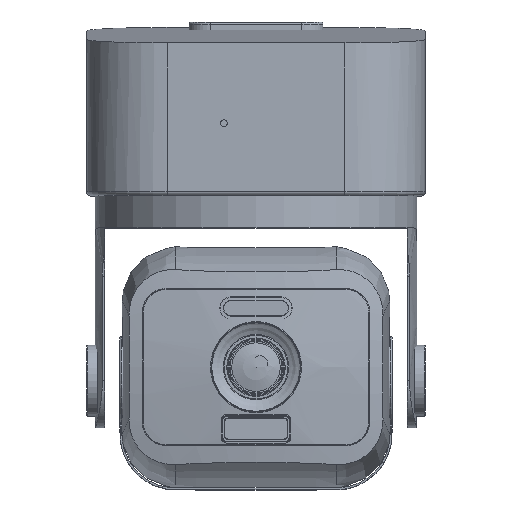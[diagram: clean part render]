
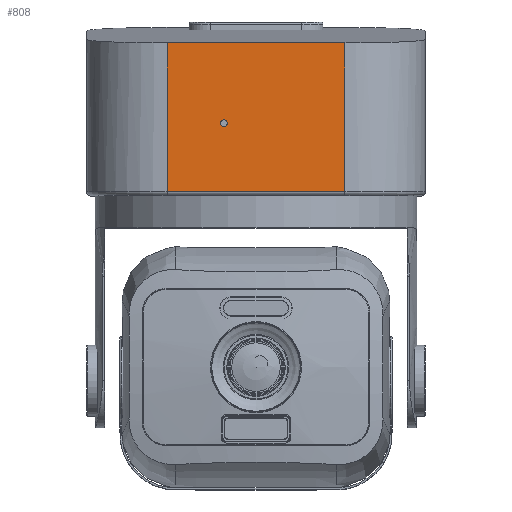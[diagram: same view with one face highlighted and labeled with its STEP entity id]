
A CAD part, top view. The second image highlights one B-rep face of the part: STEP entity #808.
In plain terms, the highlighted planar face has unit normal (0, 0, 1).
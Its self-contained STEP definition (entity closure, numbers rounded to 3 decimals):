
#99 = PLANE('',#100);
#100 = AXIS2_PLACEMENT_3D('',#101,#102,#103);
#101 = CARTESIAN_POINT('',(-100.,118.688,-100.));
#102 = DIRECTION('',(0.,-0.999,-0.047));
#103 = DIRECTION('',(0.,-0.047,0.999));
#124 = CYLINDRICAL_SURFACE('',#125,30.);
#125 = AXIS2_PLACEMENT_3D('',#126,#127,#128);
#126 = CARTESIAN_POINT('',(-33.2,54.,34.));
#127 = DIRECTION('',(-0.,1.,0.));
#128 = DIRECTION('',(-1.,-0.,0.));
#229 = VERTEX_POINT('',#230);
#230 = CARTESIAN_POINT('',(-33.2,55.6,64.));
#252 = EDGE_CURVE('',#229,#253,#255,.T.);
#253 = VERTEX_POINT('',#254);
#254 = CARTESIAN_POINT('',(-33.2,111.,64.));
#255 = SURFACE_CURVE('',#256,(#260,#267),.PCURVE_S1.);
#256 = LINE('',#257,#258);
#257 = CARTESIAN_POINT('',(-33.2,54.,64.));
#258 = VECTOR('',#259,1.);
#259 = DIRECTION('',(-0.,1.,0.));
#260 = PCURVE('',#124,#261);
#261 = DEFINITIONAL_REPRESENTATION('',(#262),#266);
#262 = LINE('',#263,#264);
#263 = CARTESIAN_POINT('',(1.571,0.));
#264 = VECTOR('',#265,1.);
#265 = DIRECTION('',(0.,1.));
#266 = ( GEOMETRIC_REPRESENTATION_CONTEXT(2) 
PARAMETRIC_REPRESENTATION_CONTEXT() REPRESENTATION_CONTEXT('2D SPACE',''
  ) );
#267 = PCURVE('',#268,#273);
#268 = PLANE('',#269);
#269 = AXIS2_PLACEMENT_3D('',#270,#271,#272);
#270 = CARTESIAN_POINT('',(-63.2,54.,64.));
#271 = DIRECTION('',(0.,0.,1.));
#272 = DIRECTION('',(1.,0.,-0.));
#273 = DEFINITIONAL_REPRESENTATION('',(#274),#278);
#274 = LINE('',#275,#276);
#275 = CARTESIAN_POINT('',(30.,0.));
#276 = VECTOR('',#277,1.);
#277 = DIRECTION('',(0.,1.));
#278 = ( GEOMETRIC_REPRESENTATION_CONTEXT(2) 
PARAMETRIC_REPRESENTATION_CONTEXT() REPRESENTATION_CONTEXT('2D SPACE',''
  ) );
#428 = VERTEX_POINT('',#429);
#429 = CARTESIAN_POINT('',(33.2,111.,64.));
#444 = CYLINDRICAL_SURFACE('',#445,30.);
#445 = AXIS2_PLACEMENT_3D('',#446,#447,#448);
#446 = CARTESIAN_POINT('',(33.2,54.,34.));
#447 = DIRECTION('',(-0.,1.,0.));
#448 = DIRECTION('',(1.,0.,-0.));
#461 = EDGE_CURVE('',#253,#428,#462,.T.);
#462 = SURFACE_CURVE('',#463,(#467,#473),.PCURVE_S1.);
#463 = LINE('',#464,#465);
#464 = CARTESIAN_POINT('',(-81.6,111.,64.));
#465 = VECTOR('',#466,1.);
#466 = DIRECTION('',(1.,0.,-0.));
#467 = PCURVE('',#99,#468);
#468 = DEFINITIONAL_REPRESENTATION('',(#469),#472);
#469 = B_SPLINE_CURVE_WITH_KNOTS('',1,(#470,#471),.UNSPECIFIED.,.F.,.F.,
  (2,2),(48.4,114.8),.PIECEWISE_BEZIER_KNOTS.);
#470 = CARTESIAN_POINT('',(164.18,-66.8));
#471 = CARTESIAN_POINT('',(164.18,-133.2));
#472 = ( GEOMETRIC_REPRESENTATION_CONTEXT(2) 
PARAMETRIC_REPRESENTATION_CONTEXT() REPRESENTATION_CONTEXT('2D SPACE',''
  ) );
#473 = PCURVE('',#268,#474);
#474 = DEFINITIONAL_REPRESENTATION('',(#475),#478);
#475 = B_SPLINE_CURVE_WITH_KNOTS('',1,(#476,#477),.UNSPECIFIED.,.F.,.F.,
  (2,2),(48.4,114.8),.PIECEWISE_BEZIER_KNOTS.);
#476 = CARTESIAN_POINT('',(30.,57.));
#477 = CARTESIAN_POINT('',(96.4,57.));
#478 = ( GEOMETRIC_REPRESENTATION_CONTEXT(2) 
PARAMETRIC_REPRESENTATION_CONTEXT() REPRESENTATION_CONTEXT('2D SPACE',''
  ) );
#630 = CYLINDRICAL_SURFACE('',#631,1.6);
#631 = AXIS2_PLACEMENT_3D('',#632,#633,#634);
#632 = CARTESIAN_POINT('',(-33.2,55.6,62.4));
#633 = DIRECTION('',(1.,0.,-0.));
#634 = DIRECTION('',(0.,0.,1.));
#808 = ADVANCED_FACE('',(#809),#268,.T.);
#809 = FACE_BOUND('',#810,.T.);
#810 = EDGE_LOOP('',(#811,#812,#835,#856));
#811 = ORIENTED_EDGE('',*,*,#252,.F.);
#812 = ORIENTED_EDGE('',*,*,#813,.T.);
#813 = EDGE_CURVE('',#229,#814,#816,.T.);
#814 = VERTEX_POINT('',#815);
#815 = CARTESIAN_POINT('',(33.2,55.6,64.));
#816 = SURFACE_CURVE('',#817,(#821,#828),.PCURVE_S1.);
#817 = LINE('',#818,#819);
#818 = CARTESIAN_POINT('',(-33.2,55.6,64.));
#819 = VECTOR('',#820,1.);
#820 = DIRECTION('',(1.,0.,-0.));
#821 = PCURVE('',#268,#822);
#822 = DEFINITIONAL_REPRESENTATION('',(#823),#827);
#823 = LINE('',#824,#825);
#824 = CARTESIAN_POINT('',(30.,1.6));
#825 = VECTOR('',#826,1.);
#826 = DIRECTION('',(1.,0.));
#827 = ( GEOMETRIC_REPRESENTATION_CONTEXT(2) 
PARAMETRIC_REPRESENTATION_CONTEXT() REPRESENTATION_CONTEXT('2D SPACE',''
  ) );
#828 = PCURVE('',#630,#829);
#829 = DEFINITIONAL_REPRESENTATION('',(#830),#834);
#830 = LINE('',#831,#832);
#831 = CARTESIAN_POINT('',(0.,0.));
#832 = VECTOR('',#833,1.);
#833 = DIRECTION('',(0.,1.));
#834 = ( GEOMETRIC_REPRESENTATION_CONTEXT(2) 
PARAMETRIC_REPRESENTATION_CONTEXT() REPRESENTATION_CONTEXT('2D SPACE',''
  ) );
#835 = ORIENTED_EDGE('',*,*,#836,.T.);
#836 = EDGE_CURVE('',#814,#428,#837,.T.);
#837 = SURFACE_CURVE('',#838,(#842,#849),.PCURVE_S1.);
#838 = LINE('',#839,#840);
#839 = CARTESIAN_POINT('',(33.2,54.,64.));
#840 = VECTOR('',#841,1.);
#841 = DIRECTION('',(-0.,1.,0.));
#842 = PCURVE('',#268,#843);
#843 = DEFINITIONAL_REPRESENTATION('',(#844),#848);
#844 = LINE('',#845,#846);
#845 = CARTESIAN_POINT('',(96.4,0.));
#846 = VECTOR('',#847,1.);
#847 = DIRECTION('',(0.,1.));
#848 = ( GEOMETRIC_REPRESENTATION_CONTEXT(2) 
PARAMETRIC_REPRESENTATION_CONTEXT() REPRESENTATION_CONTEXT('2D SPACE',''
  ) );
#849 = PCURVE('',#444,#850);
#850 = DEFINITIONAL_REPRESENTATION('',(#851),#855);
#851 = LINE('',#852,#853);
#852 = CARTESIAN_POINT('',(-1.571,0.));
#853 = VECTOR('',#854,1.);
#854 = DIRECTION('',(-0.,1.));
#855 = ( GEOMETRIC_REPRESENTATION_CONTEXT(2) 
PARAMETRIC_REPRESENTATION_CONTEXT() REPRESENTATION_CONTEXT('2D SPACE',''
  ) );
#856 = ORIENTED_EDGE('',*,*,#461,.F.);
